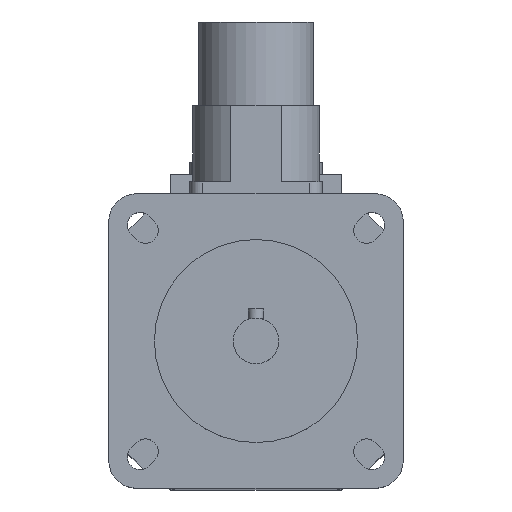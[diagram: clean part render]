
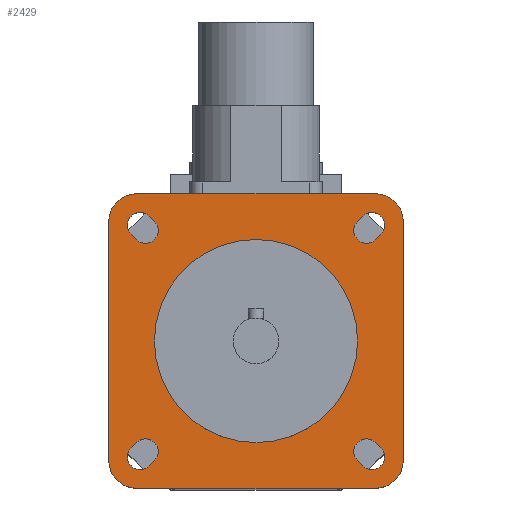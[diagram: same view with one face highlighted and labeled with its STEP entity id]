
A CAD part, top view. The second image highlights one B-rep face of the part: STEP entity #2429.
In plain terms, the highlighted planar face has unit normal (0, 0, 1).
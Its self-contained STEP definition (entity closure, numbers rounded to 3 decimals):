
#28=FACE_BOUND('',#427,.T.);
#29=FACE_BOUND('',#428,.T.);
#30=FACE_BOUND('',#429,.T.);
#31=FACE_BOUND('',#430,.T.);
#32=FACE_BOUND('',#431,.T.);
#47=CIRCLE('',#2525,20.);
#84=CIRCLE('',#2589,2.5);
#88=CIRCLE('',#2596,2.5);
#89=CIRCLE('',#2599,2.5);
#90=CIRCLE('',#2602,2.5);
#100=CIRCLE('',#2617,2.5);
#101=CIRCLE('',#2620,2.5);
#102=CIRCLE('',#2623,2.5);
#103=CIRCLE('',#2626,2.5);
#104=CIRCLE('',#2628,5.5);
#105=CIRCLE('',#2630,5.5);
#106=CIRCLE('',#2632,5.5);
#107=CIRCLE('',#2634,5.5);
#282=FACE_OUTER_BOUND('',#426,.T.);
#426=EDGE_LOOP('',(#1862,#1863,#1864,#1865,#1866,#1867,#1868,#1869));
#427=EDGE_LOOP('',(#1870));
#428=EDGE_LOOP('',(#1871,#1872,#1873,#1874));
#429=EDGE_LOOP('',(#1875,#1876,#1877,#1878));
#430=EDGE_LOOP('',(#1879,#1880,#1881,#1882));
#431=EDGE_LOOP('',(#1883,#1884,#1885,#1886));
#576=LINE('',#3759,#807);
#584=LINE('',#3783,#815);
#588=LINE('',#3793,#819);
#592=LINE('',#3803,#823);
#608=LINE('',#3854,#839);
#610=LINE('',#3860,#841);
#612=LINE('',#3866,#843);
#614=LINE('',#3872,#845);
#623=LINE('',#3900,#854);
#624=LINE('',#3901,#855);
#625=LINE('',#3902,#856);
#626=LINE('',#3903,#857);
#807=VECTOR('',#2980,1.5);
#815=VECTOR('',#3002,1.5);
#819=VECTOR('',#3012,1.5);
#823=VECTOR('',#3022,1.5);
#839=VECTOR('',#3068,1.5);
#841=VECTOR('',#3076,1.5);
#843=VECTOR('',#3084,1.5);
#845=VECTOR('',#3092,1.5);
#854=VECTOR('',#3123,47.);
#855=VECTOR('',#3124,47.);
#856=VECTOR('',#3125,47.);
#857=VECTOR('',#3126,47.);
#992=VERTEX_POINT('',#3580);
#1057=VERTEX_POINT('',#3756);
#1058=VERTEX_POINT('',#3758);
#1059=VERTEX_POINT('',#3762);
#1066=VERTEX_POINT('',#3780);
#1067=VERTEX_POINT('',#3782);
#1068=VERTEX_POINT('',#3786);
#1069=VERTEX_POINT('',#3790);
#1070=VERTEX_POINT('',#3792);
#1071=VERTEX_POINT('',#3796);
#1072=VERTEX_POINT('',#3800);
#1073=VERTEX_POINT('',#3802);
#1074=VERTEX_POINT('',#3806);
#1093=VERTEX_POINT('',#3852);
#1094=VERTEX_POINT('',#3858);
#1095=VERTEX_POINT('',#3864);
#1096=VERTEX_POINT('',#3870);
#1097=VERTEX_POINT('',#3876);
#1098=VERTEX_POINT('',#3878);
#1099=VERTEX_POINT('',#3882);
#1100=VERTEX_POINT('',#3884);
#1101=VERTEX_POINT('',#3888);
#1102=VERTEX_POINT('',#3890);
#1103=VERTEX_POINT('',#3894);
#1104=VERTEX_POINT('',#3896);
#1234=EDGE_CURVE('',#992,#992,#47,.T.);
#1320=EDGE_CURVE('',#1058,#1057,#576,.T.);
#1323=EDGE_CURVE('',#1057,#1059,#84,.T.);
#1332=EDGE_CURVE('',#1067,#1066,#584,.T.);
#1335=EDGE_CURVE('',#1066,#1068,#88,.T.);
#1337=EDGE_CURVE('',#1070,#1069,#588,.T.);
#1340=EDGE_CURVE('',#1069,#1071,#89,.T.);
#1342=EDGE_CURVE('',#1073,#1072,#592,.T.);
#1345=EDGE_CURVE('',#1072,#1074,#90,.T.);
#1368=EDGE_CURVE('',#1071,#1093,#608,.T.);
#1369=EDGE_CURVE('',#1093,#1070,#100,.T.);
#1371=EDGE_CURVE('',#1068,#1094,#610,.T.);
#1372=EDGE_CURVE('',#1094,#1067,#101,.T.);
#1374=EDGE_CURVE('',#1074,#1095,#612,.T.);
#1375=EDGE_CURVE('',#1095,#1073,#102,.T.);
#1377=EDGE_CURVE('',#1059,#1096,#614,.T.);
#1378=EDGE_CURVE('',#1096,#1058,#103,.T.);
#1380=EDGE_CURVE('',#1098,#1097,#104,.T.);
#1383=EDGE_CURVE('',#1100,#1099,#105,.T.);
#1386=EDGE_CURVE('',#1102,#1101,#106,.T.);
#1389=EDGE_CURVE('',#1104,#1103,#107,.T.);
#1391=EDGE_CURVE('',#1097,#1104,#623,.T.);
#1392=EDGE_CURVE('',#1103,#1102,#624,.T.);
#1393=EDGE_CURVE('',#1101,#1100,#625,.T.);
#1394=EDGE_CURVE('',#1099,#1098,#626,.T.);
#1862=ORIENTED_EDGE('',*,*,#1391,.T.);
#1863=ORIENTED_EDGE('',*,*,#1389,.T.);
#1864=ORIENTED_EDGE('',*,*,#1392,.T.);
#1865=ORIENTED_EDGE('',*,*,#1386,.T.);
#1866=ORIENTED_EDGE('',*,*,#1393,.T.);
#1867=ORIENTED_EDGE('',*,*,#1383,.T.);
#1868=ORIENTED_EDGE('',*,*,#1394,.T.);
#1869=ORIENTED_EDGE('',*,*,#1380,.T.);
#1870=ORIENTED_EDGE('',*,*,#1234,.T.);
#1871=ORIENTED_EDGE('',*,*,#1368,.T.);
#1872=ORIENTED_EDGE('',*,*,#1369,.T.);
#1873=ORIENTED_EDGE('',*,*,#1337,.T.);
#1874=ORIENTED_EDGE('',*,*,#1340,.T.);
#1875=ORIENTED_EDGE('',*,*,#1371,.T.);
#1876=ORIENTED_EDGE('',*,*,#1372,.T.);
#1877=ORIENTED_EDGE('',*,*,#1332,.T.);
#1878=ORIENTED_EDGE('',*,*,#1335,.T.);
#1879=ORIENTED_EDGE('',*,*,#1374,.T.);
#1880=ORIENTED_EDGE('',*,*,#1375,.T.);
#1881=ORIENTED_EDGE('',*,*,#1342,.T.);
#1882=ORIENTED_EDGE('',*,*,#1345,.T.);
#1883=ORIENTED_EDGE('',*,*,#1377,.T.);
#1884=ORIENTED_EDGE('',*,*,#1378,.T.);
#1885=ORIENTED_EDGE('',*,*,#1320,.T.);
#1886=ORIENTED_EDGE('',*,*,#1323,.T.);
#2328=PLANE('',#2635);
#2429=ADVANCED_FACE('',(#282,#28,#29,#30,#31,#32),#2328,.T.);
#2525=AXIS2_PLACEMENT_3D('',#3581,#2805,#2806);
#2589=AXIS2_PLACEMENT_3D('',#3764,#2985,#2986);
#2596=AXIS2_PLACEMENT_3D('',#3788,#3007,#3008);
#2599=AXIS2_PLACEMENT_3D('',#3798,#3017,#3018);
#2602=AXIS2_PLACEMENT_3D('',#3808,#3027,#3028);
#2617=AXIS2_PLACEMENT_3D('',#3856,#3071,#3072);
#2620=AXIS2_PLACEMENT_3D('',#3862,#3079,#3080);
#2623=AXIS2_PLACEMENT_3D('',#3868,#3087,#3088);
#2626=AXIS2_PLACEMENT_3D('',#3874,#3095,#3096);
#2628=AXIS2_PLACEMENT_3D('',#3879,#3100,#3101);
#2630=AXIS2_PLACEMENT_3D('',#3885,#3106,#3107);
#2632=AXIS2_PLACEMENT_3D('',#3891,#3112,#3113);
#2634=AXIS2_PLACEMENT_3D('',#3897,#3118,#3119);
#2635=AXIS2_PLACEMENT_3D('',#3899,#3121,#3122);
#2805=DIRECTION('center_axis',(0.,0.,-1.));
#2806=DIRECTION('ref_axis',(-1.,0.,0.));
#2980=DIRECTION('',(-0.707,-0.707,0.));
#2985=DIRECTION('center_axis',(0.,0.,-1.));
#2986=DIRECTION('ref_axis',(0.707,-0.707,0.));
#3002=DIRECTION('',(-0.707,0.707,0.));
#3007=DIRECTION('center_axis',(0.,0.,-1.));
#3008=DIRECTION('ref_axis',(-0.707,-0.707,0.));
#3012=DIRECTION('',(-0.707,-0.707,0.));
#3017=DIRECTION('center_axis',(0.,0.,-1.));
#3018=DIRECTION('ref_axis',(0.707,-0.707,0.));
#3022=DIRECTION('',(-0.707,0.707,0.));
#3027=DIRECTION('center_axis',(0.,0.,-1.));
#3028=DIRECTION('ref_axis',(-0.707,-0.707,0.));
#3068=DIRECTION('',(0.707,0.707,0.));
#3071=DIRECTION('center_axis',(0.,0.,-1.));
#3072=DIRECTION('ref_axis',(-0.707,0.707,0.));
#3076=DIRECTION('',(0.707,-0.707,0.));
#3079=DIRECTION('center_axis',(0.,0.,-1.));
#3080=DIRECTION('ref_axis',(0.707,0.707,0.));
#3084=DIRECTION('',(0.707,-0.707,0.));
#3087=DIRECTION('center_axis',(0.,0.,-1.));
#3088=DIRECTION('ref_axis',(0.707,0.707,0.));
#3092=DIRECTION('',(0.707,0.707,0.));
#3095=DIRECTION('center_axis',(0.,0.,-1.));
#3096=DIRECTION('ref_axis',(-0.707,0.707,0.));
#3100=DIRECTION('center_axis',(0.,0.,1.));
#3101=DIRECTION('ref_axis',(1.,0.,0.));
#3106=DIRECTION('center_axis',(0.,0.,1.));
#3107=DIRECTION('ref_axis',(0.,-1.,0.));
#3112=DIRECTION('center_axis',(0.,0.,1.));
#3113=DIRECTION('ref_axis',(-1.,0.,0.));
#3118=DIRECTION('center_axis',(0.,0.,1.));
#3119=DIRECTION('ref_axis',(0.,1.,0.));
#3121=DIRECTION('center_axis',(0.,0.,1.));
#3122=DIRECTION('ref_axis',(1.,0.,0.));
#3123=DIRECTION('',(-1.,0.,0.));
#3124=DIRECTION('',(0.,-1.,0.));
#3125=DIRECTION('',(1.,0.,0.));
#3126=DIRECTION('',(0.,1.,0.));
#3580=CARTESIAN_POINT('',(20.,0.,128.5));
#3581=CARTESIAN_POINT('Origin',(0.,0.,128.5));
#3756=CARTESIAN_POINT('',(-21.036,-24.572,128.5));
#3758=CARTESIAN_POINT('',(-19.976,-23.511,128.5));
#3759=CARTESIAN_POINT('',(-9.634,-13.17,128.5));
#3762=CARTESIAN_POINT('',(-24.572,-21.036,128.5));
#3764=CARTESIAN_POINT('Origin',(-22.804,-22.804,128.5));
#3780=CARTESIAN_POINT('',(-24.572,21.036,128.5));
#3782=CARTESIAN_POINT('',(-23.511,19.976,128.5));
#3783=CARTESIAN_POINT('',(-13.17,9.634,128.5));
#3786=CARTESIAN_POINT('',(-21.036,24.572,128.5));
#3788=CARTESIAN_POINT('Origin',(-22.804,22.804,128.5));
#3790=CARTESIAN_POINT('',(23.511,19.976,128.5));
#3792=CARTESIAN_POINT('',(24.572,21.036,128.5));
#3793=CARTESIAN_POINT('',(12.64,9.104,128.5));
#3796=CARTESIAN_POINT('',(19.976,23.511,128.5));
#3798=CARTESIAN_POINT('Origin',(21.744,21.744,128.5));
#3800=CARTESIAN_POINT('',(19.976,-23.511,128.5));
#3802=CARTESIAN_POINT('',(21.036,-24.572,128.5));
#3803=CARTESIAN_POINT('',(9.104,-12.64,128.5));
#3806=CARTESIAN_POINT('',(23.511,-19.976,128.5));
#3808=CARTESIAN_POINT('Origin',(21.744,-21.744,128.5));
#3852=CARTESIAN_POINT('',(21.036,24.572,128.5));
#3854=CARTESIAN_POINT('',(9.634,13.17,128.5));
#3856=CARTESIAN_POINT('Origin',(22.804,22.804,128.5));
#3858=CARTESIAN_POINT('',(-19.976,23.511,128.5));
#3860=CARTESIAN_POINT('',(-9.104,12.64,128.5));
#3862=CARTESIAN_POINT('Origin',(-21.744,21.744,128.5));
#3864=CARTESIAN_POINT('',(24.572,-21.036,128.5));
#3866=CARTESIAN_POINT('',(13.17,-9.634,128.5));
#3868=CARTESIAN_POINT('Origin',(22.804,-22.804,128.5));
#3870=CARTESIAN_POINT('',(-23.511,-19.976,128.5));
#3872=CARTESIAN_POINT('',(-12.64,-9.104,128.5));
#3874=CARTESIAN_POINT('Origin',(-21.744,-21.744,128.5));
#3876=CARTESIAN_POINT('',(23.5,29.,128.5));
#3878=CARTESIAN_POINT('',(29.,23.5,128.5));
#3879=CARTESIAN_POINT('Origin',(23.5,23.5,128.5));
#3882=CARTESIAN_POINT('',(29.,-23.5,128.5));
#3884=CARTESIAN_POINT('',(23.5,-29.,128.5));
#3885=CARTESIAN_POINT('Origin',(23.5,-23.5,128.5));
#3888=CARTESIAN_POINT('',(-23.5,-29.,128.5));
#3890=CARTESIAN_POINT('',(-29.,-23.5,128.5));
#3891=CARTESIAN_POINT('Origin',(-23.5,-23.5,128.5));
#3894=CARTESIAN_POINT('',(-29.,23.5,128.5));
#3896=CARTESIAN_POINT('',(-23.5,29.,128.5));
#3897=CARTESIAN_POINT('Origin',(-23.5,23.5,128.5));
#3899=CARTESIAN_POINT('Origin',(0.,0.,
128.5));
#3900=CARTESIAN_POINT('',(23.5,29.,128.5));
#3901=CARTESIAN_POINT('',(-29.,23.5,128.5));
#3902=CARTESIAN_POINT('',(-23.5,-29.,128.5));
#3903=CARTESIAN_POINT('',(29.,-23.5,128.5));
